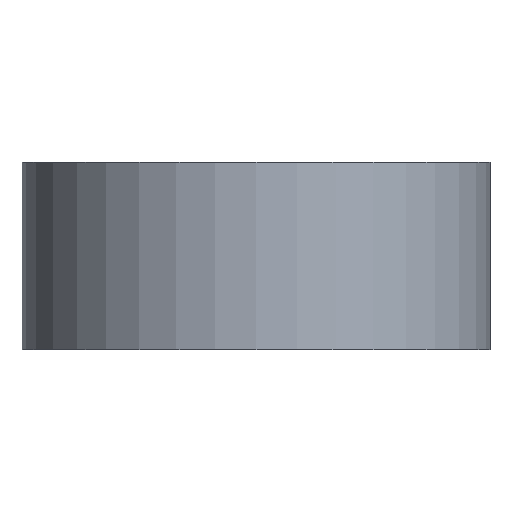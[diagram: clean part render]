
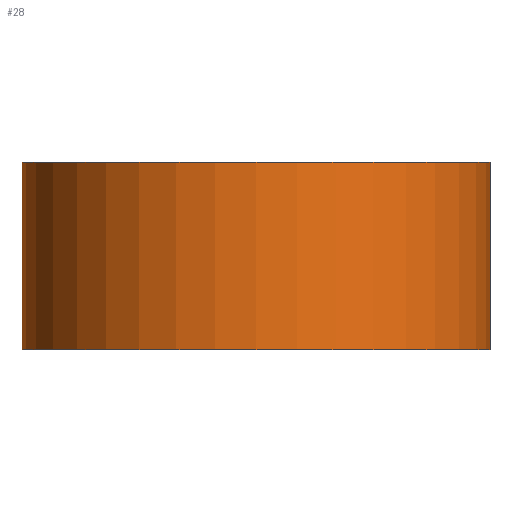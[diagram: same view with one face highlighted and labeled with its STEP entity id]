
A CAD part, front view. The second image highlights one B-rep face of the part: STEP entity #28.
In plain terms, the highlighted cylindrical face has radius 7.938 mm (diameter 15.875 mm), a partial arc.
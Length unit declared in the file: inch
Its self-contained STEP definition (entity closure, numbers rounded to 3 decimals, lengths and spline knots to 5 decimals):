
#26 = ORIENTED_EDGE ( 'NONE', *, *, #118, .F. ) ;
#27 = ORIENTED_EDGE ( 'NONE', *, *, #110, .T. ) ;
#28 = ADVANCED_FACE ( 'NONE', ( #215 ), #195, .T. ) ;
#32 = VERTEX_POINT ( 'NONE', #191 ) ;
#96 = VERTEX_POINT ( 'NONE', #344 ) ;
#110 = EDGE_CURVE ( 'NONE', #112, #116, #387, .T. ) ;
#111 = ORIENTED_EDGE ( 'NONE', *, *, #153, .F. ) ;
#112 = VERTEX_POINT ( 'NONE', #383 ) ;
#114 = EDGE_CURVE ( 'NONE', #116, #32, #322, .T. ) ;
#116 = VERTEX_POINT ( 'NONE', #318 ) ;
#117 = ORIENTED_EDGE ( 'NONE', *, *, #114, .T. ) ;
#118 = EDGE_CURVE ( 'NONE', #112, #96, #317, .T. ) ;
#153 = EDGE_CURVE ( 'NONE', #96, #32, #421, .T. ) ;
#157 = EDGE_LOOP ( 'NONE', ( #111, #26, #27, #117 ) ) ;
#191 = CARTESIAN_POINT ( 'NONE',  ( 0.3125, 0., 0. ) ) ;
#192 = DIRECTION ( 'NONE',  ( -1., 0., 0. ) ) ;
#193 = DIRECTION ( 'NONE',  ( 0., 0., -1. ) ) ;
#194 = AXIS2_PLACEMENT_3D ( 'NONE', #197, #193, #192 ) ;
#195 = CYLINDRICAL_SURFACE ( 'NONE', #194, 0.3125 ) ;
#197 = CARTESIAN_POINT ( 'NONE',  ( 0., 0., 0.25 ) ) ;
#215 = FACE_OUTER_BOUND ( 'NONE', #157, .T. ) ;
#313 = DIRECTION ( 'NONE',  ( 1., 0., 0. ) ) ;
#314 = DIRECTION ( 'NONE',  ( 0., 0., 1. ) ) ;
#315 = CARTESIAN_POINT ( 'NONE',  ( 0., 0., 0.25 ) ) ;
#316 = AXIS2_PLACEMENT_3D ( 'NONE', #315, #314, #313 ) ;
#317 = CIRCLE ( 'NONE', #316, 0.3125 ) ;
#318 = CARTESIAN_POINT ( 'NONE',  ( -0.3125, 0., 0. ) ) ;
#319 = DIRECTION ( 'NONE',  ( 1., 0., 0. ) ) ;
#320 = DIRECTION ( 'NONE',  ( 0., 0., 1. ) ) ;
#321 = AXIS2_PLACEMENT_3D ( 'NONE', #332, #320, #319 ) ;
#322 = CIRCLE ( 'NONE', #321, 0.3125 ) ;
#332 = CARTESIAN_POINT ( 'NONE',  ( 0., 0., 0. ) ) ;
#344 = CARTESIAN_POINT ( 'NONE',  ( 0.3125, 0., 0.25 ) ) ;
#383 = CARTESIAN_POINT ( 'NONE',  ( -0.3125, 0., 0.25 ) ) ;
#384 = DIRECTION ( 'NONE',  ( 0., 0., -1. ) ) ;
#385 = VECTOR ( 'NONE', #384, 39.37008 ) ;
#386 = CARTESIAN_POINT ( 'NONE',  ( -0.3125, 0., 0.25 ) ) ;
#387 = LINE ( 'NONE', #386, #385 ) ;
#420 = CARTESIAN_POINT ( 'NONE',  ( 0.3125, 0., 0.25 ) ) ;
#421 = LINE ( 'NONE', #420, #453 ) ;
#452 = DIRECTION ( 'NONE',  ( 0., 0., -1. ) ) ;
#453 = VECTOR ( 'NONE', #452, 39.37008 ) ;
